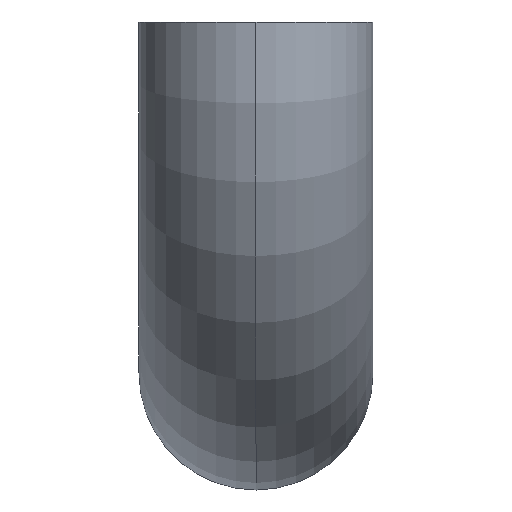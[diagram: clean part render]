
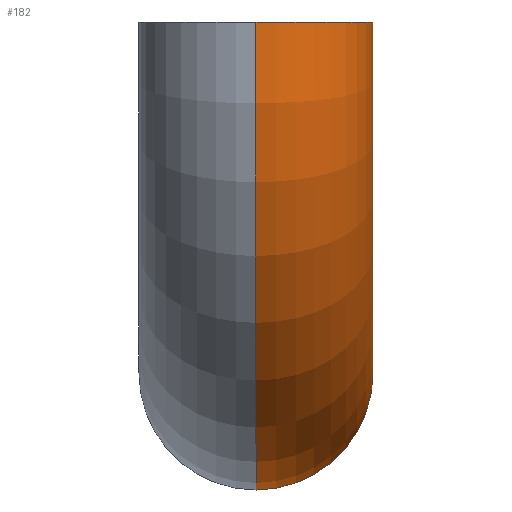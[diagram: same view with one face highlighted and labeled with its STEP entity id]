
A CAD part, left-side view. The second image highlights one B-rep face of the part: STEP entity #182.
In plain terms, the highlighted toroidal (fillet/blend) face has major radius 228.6 mm and minor radius 76.2 mm.
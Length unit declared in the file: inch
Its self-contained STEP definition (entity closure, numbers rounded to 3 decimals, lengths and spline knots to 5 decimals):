
#10 = EDGE_CURVE ( 'NONE', #157, #248, #94, .T. ) ;
#19 = CARTESIAN_POINT ( 'NONE',  ( -9., 0., 0. ) ) ;
#20 = AXIS2_PLACEMENT_3D ( 'NONE', #288, #259, #262 ) ;
#46 = CIRCLE ( 'NONE', #20, 6. ) ;
#55 = FACE_OUTER_BOUND ( 'NONE', #95, .T. ) ;
#57 = CARTESIAN_POINT ( 'NONE',  ( -21., 0., 0. ) ) ;
#63 = DIRECTION ( 'NONE',  ( 0., -1., 0. ) ) ;
#65 = CARTESIAN_POINT ( 'NONE',  ( -9., 0., -9. ) ) ;
#67 = EDGE_CURVE ( 'NONE', #248, #203, #196, .T. ) ;
#68 = DIRECTION ( 'NONE',  ( 0., 0., -1. ) ) ;
#94 = CIRCLE ( 'NONE', #279, 12. ) ;
#95 = EDGE_LOOP ( 'NONE', ( #277, #230, #234, #104 ) ) ;
#104 = ORIENTED_EDGE ( 'NONE', *, *, #205, .F. ) ;
#110 = TOROIDAL_SURFACE ( 'NONE', #300, 9., 3. ) ;
#123 = CIRCLE ( 'NONE', #331, 3. ) ;
#126 = EDGE_CURVE ( 'NONE', #129, #157, #123, .T. ) ;
#129 = VERTEX_POINT ( 'NONE', #169 ) ;
#157 = VERTEX_POINT ( 'NONE', #57 ) ;
#162 = CARTESIAN_POINT ( 'NONE',  ( -9., 0., -6. ) ) ;
#164 = DIRECTION ( 'NONE',  ( -1., 0., 0. ) ) ;
#166 = AXIS2_PLACEMENT_3D ( 'NONE', #65, #164, #314 ) ;
#169 = CARTESIAN_POINT ( 'NONE',  ( -15., 0., 0. ) ) ;
#182 = ADVANCED_FACE ( 'NONE', ( #55 ), #110, .T. ) ;
#188 = CARTESIAN_POINT ( 'NONE',  ( -9., 0., 0. ) ) ;
#196 = CIRCLE ( 'NONE', #166, 3. ) ;
#203 = VERTEX_POINT ( 'NONE', #162 ) ;
#204 = DIRECTION ( 'NONE',  ( 0., 0., -1. ) ) ;
#205 = EDGE_CURVE ( 'NONE', #129, #203, #46, .T. ) ;
#219 = CARTESIAN_POINT ( 'NONE',  ( -18., 0., 0. ) ) ;
#230 = ORIENTED_EDGE ( 'NONE', *, *, #10, .T. ) ;
#234 = ORIENTED_EDGE ( 'NONE', *, *, #67, .T. ) ;
#238 = CARTESIAN_POINT ( 'NONE',  ( -9., 0., -12. ) ) ;
#248 = VERTEX_POINT ( 'NONE', #238 ) ;
#259 = DIRECTION ( 'NONE',  ( 0., -1., 0. ) ) ;
#262 = DIRECTION ( 'NONE',  ( 0., 0., -1. ) ) ;
#277 = ORIENTED_EDGE ( 'NONE', *, *, #126, .T. ) ;
#279 = AXIS2_PLACEMENT_3D ( 'NONE', #19, #294, #68 ) ;
#288 = CARTESIAN_POINT ( 'NONE',  ( -9., 0., 0. ) ) ;
#294 = DIRECTION ( 'NONE',  ( 0., -1., 0. ) ) ;
#298 = DIRECTION ( 'NONE',  ( -1., 0., 0. ) ) ;
#300 = AXIS2_PLACEMENT_3D ( 'NONE', #188, #63, #204 ) ;
#314 = DIRECTION ( 'NONE',  ( 0., 0., 1. ) ) ;
#326 = DIRECTION ( 'NONE',  ( 0., 0., -1. ) ) ;
#331 = AXIS2_PLACEMENT_3D ( 'NONE', #219, #326, #298 ) ;
